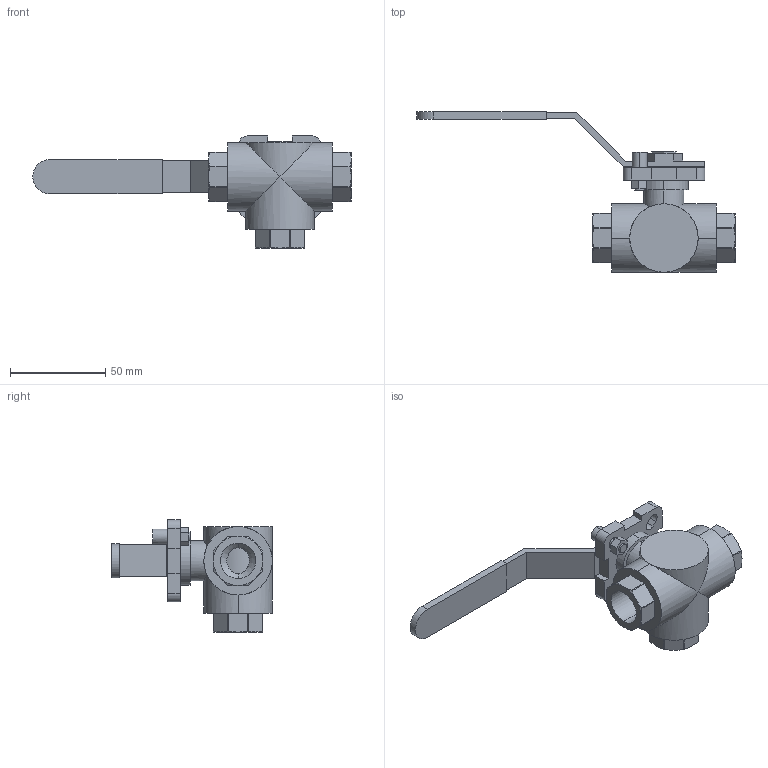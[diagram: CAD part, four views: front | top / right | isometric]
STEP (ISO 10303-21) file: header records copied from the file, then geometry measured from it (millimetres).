
FILE_DESCRIPTION (( 'STEP AP203' ), '1' );
FILE_NAME ('04.622I015IFVPB0.STEP', '2018-10-05T12:01:02', ( '' ), ( '' ), 'SwSTEP 2.0', 'SolidWorks 2014', '' );
FILE_SCHEMA (( 'CONFIG_CONTROL_DESIGN' ));
Length unit declared in the file: millimetre
Products named in the file (1): 04.622I015IFVPB0
Bounding box: 167.5 x 84.5 x 59 mm (x, y, z)
Volume: 98921.3 mm3; surface area: 28532.6 mm2
Topology: 1 solids, 1 shells, 207 faces, 533 edges, 341 vertices
Faces by surface type: plane 102, cylinder 75, cone 30
Entity records: 6823 total; most frequent: CARTESIAN_POINT 1720, ORIENTED_EDGE 1066, DIRECTION 1022, EDGE_CURVE 533, AXIS2_PLACEMENT_3D 361, VERTEX_POINT 341, LINE 300, VECTOR 300
